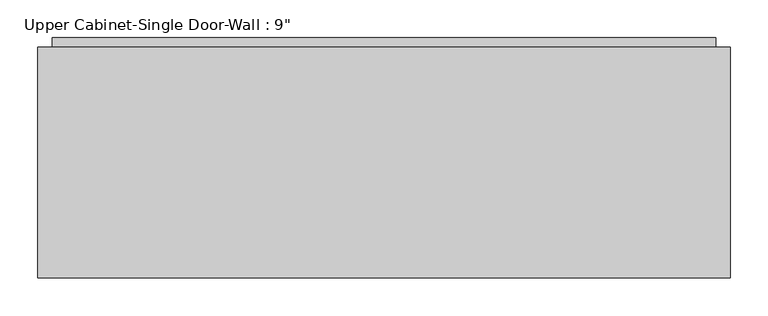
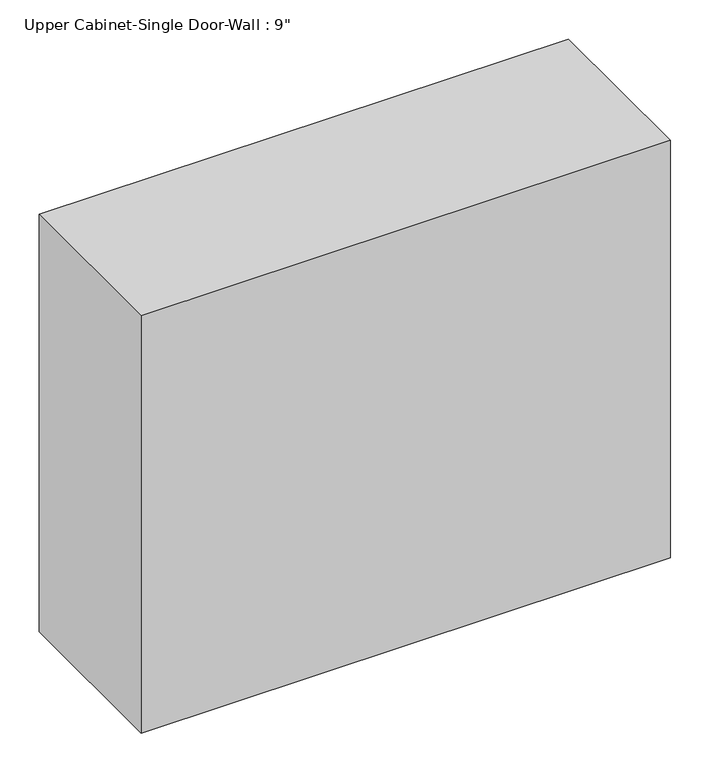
"""IFC4 building model written with IfcOpenShell, lengths in millimetres: furniture geometry."""

from ifc_helpers import new_model, si_unit, frame, origin, place, context, project, spatial, polyline, outline, extrude, faceted_brep, source, transform, mapped, element, save


def furniture_e144d364(model_context):
    return source(origin(), model_context, "Body", "SolidModel", [
        faceted_brep([(-656.0288372, 57.15, 2133.6), (-656.0288372, 57.15, 1371.6), (258.3711628, 57.15, 1371.6), (258.3711628, 57.15, 2133.6), (-656.0288372, 361.95, 2133.6), (258.3711628, 361.95, 2133.6), (258.3711628, 361.95, 1371.6), (-656.0288372, 361.95, 1371.6), (-636.9788372, 361.95, 2114.55), (-636.9788372, 361.95, 1390.65), (239.3211628, 361.95, 1390.65), (239.3211628, 361.95, 2114.55), (239.3211628, 76.2, 2114.55), (-636.9788372, 76.2, 2114.55), (239.3211628, 76.2, 1390.65), (-636.9788372, 76.2, 1390.65)], [[[0, 1, 2, 3]], [[4, 5, 6, 7], [8, 9, 10, 11]], [[1, 0, 4, 7]], [[2, 1, 7, 6]], [[3, 2, 6, 5]], [[0, 3, 5, 4]], [[8, 11, 12, 13]], [[11, 10, 14, 12]], [[10, 9, 15, 14]], [[9, 8, 13, 15]], [[13, 12, 14, 15]]]),
        extrude(outline(polyline([(-636.9788372, 374.65), (239.3211628, 374.65), (239.3211628, 342.9), (-636.9788372, 342.9), (-636.9788372, 374.65)])), frame((0.0, 0.0, 1390.65), z_axis=(0.0, 0.0, 1.0), x_axis=(1.0, 0.0, 0.0)), (0.0, 0.0, 1.0), 723.9),
    ])


if __name__ == "__main__":
    model = new_model("IFC4")
    model_context = context("Model", 3, world=origin())
    ifc_project = project(units=[si_unit("LENGTHUNIT", "METRE", prefix="MILLI")], contexts=[model_context])
    site = spatial("IfcSite", under=ifc_project)
    building = spatial("IfcBuilding", under=site)
    placement = place(None, origin())
    furniture_shape = furniture_e144d364(model_context)
    element("IfcFurniture", 1, ObjectType="Upper Cabinet-Single Door-Wall : 9\"", at=placement, inside=building, context=model_context, shape_type="MappedRepresentation", body=[
        mapped(furniture_shape, transform((0.0, 0.0, 0.0), x_axis=(1.0, 0.0, 0.0), y_axis=(0.0, 1.0, 0.0), z_axis=(0.0, 0.0, 1.0))),
    ])
    save(model, "model.ifc")
